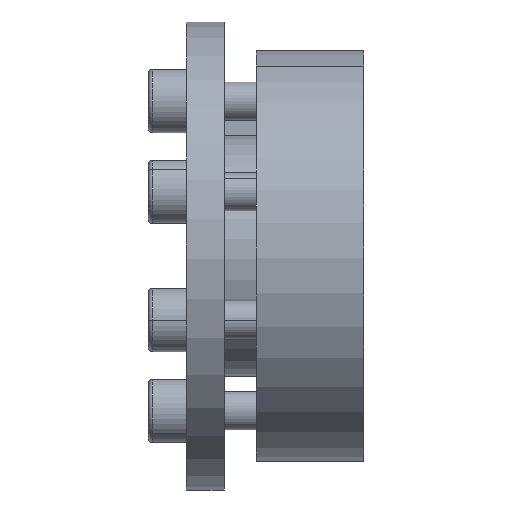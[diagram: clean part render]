
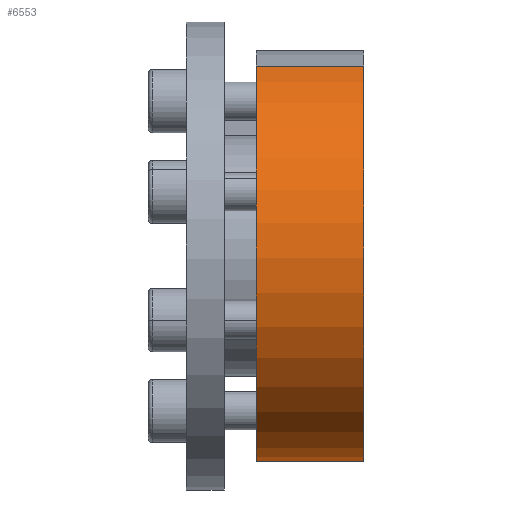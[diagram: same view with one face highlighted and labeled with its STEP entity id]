
A CAD part, front view. The second image highlights one B-rep face of the part: STEP entity #6553.
In plain terms, the highlighted cylindrical face has radius 32.5 mm (diameter 65 mm), a partial arc.
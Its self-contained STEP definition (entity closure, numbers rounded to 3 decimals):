
#249 = VERTEX_POINT ( 'NONE', #6549 ) ;
#400 = FACE_OUTER_BOUND ( 'NONE', #5461, .T. ) ;
#410 = VECTOR ( 'NONE', #6343, 1000. ) ;
#549 = AXIS2_PLACEMENT_3D ( 'NONE', #2062, #5718, #2579 ) ;
#569 = LINE ( 'NONE', #4832, #5624 ) ;
#1087 = EDGE_CURVE ( 'NONE', #1140, #3642, #2756, .T. ) ;
#1140 = VERTEX_POINT ( 'NONE', #3839 ) ;
#1317 = EDGE_CURVE ( 'NONE', #3642, #249, #5932, .T. ) ;
#1482 = CARTESIAN_POINT ( 'NONE',  ( 0.485, -17.829, 30.033 ) ) ;
#1727 = DIRECTION ( 'NONE',  ( 1., 0., 0. ) ) ;
#1869 = CARTESIAN_POINT ( 'NONE',  ( -16.515, -6.392, -32.478 ) ) ;
#1926 = AXIS2_PLACEMENT_3D ( 'NONE', #2587, #5187, #6215 ) ;
#2062 = CARTESIAN_POINT ( 'NONE',  ( -16.515, -5.392, 0.007 ) ) ;
#2308 = ORIENTED_EDGE ( 'NONE', *, *, #1087, .T. ) ;
#2579 = DIRECTION ( 'NONE',  ( 0., 0.383, -0.924 ) ) ;
#2587 = CARTESIAN_POINT ( 'NONE',  ( -16.515, -5.392, 0.007 ) ) ;
#2756 = CIRCLE ( 'NONE', #5382, 32.5 ) ;
#3309 = ORIENTED_EDGE ( 'NONE', *, *, #6159, .T. ) ;
#3511 = VERTEX_POINT ( 'NONE', #1869 ) ;
#3624 = ORIENTED_EDGE ( 'NONE', *, *, #4136, .F. ) ;
#3642 = VERTEX_POINT ( 'NONE', #1482 ) ;
#3764 = DIRECTION ( 'NONE',  ( 0., 0.383, -0.924 ) ) ;
#3839 = CARTESIAN_POINT ( 'NONE',  ( 0.485, -6.392, -32.478 ) ) ;
#4136 = EDGE_CURVE ( 'NONE', #3511, #249, #6447, .T. ) ;
#4275 = ORIENTED_EDGE ( 'NONE', *, *, #1317, .T. ) ;
#4392 = CYLINDRICAL_SURFACE ( 'NONE', #1926, 32.5 ) ;
#4832 = CARTESIAN_POINT ( 'NONE',  ( -16.515, -6.392, -32.478 ) ) ;
#4976 = CARTESIAN_POINT ( 'NONE',  ( -16.515, -17.829, 30.033 ) ) ;
#5187 = DIRECTION ( 'NONE',  ( -1., 0., 0. ) ) ;
#5382 = AXIS2_PLACEMENT_3D ( 'NONE', #5618, #5634, #3764 ) ;
#5461 = EDGE_LOOP ( 'NONE', ( #2308, #4275, #3624, #3309 ) ) ;
#5618 = CARTESIAN_POINT ( 'NONE',  ( 0.485, -5.392, 0.007 ) ) ;
#5624 = VECTOR ( 'NONE', #1727, 1000. ) ;
#5634 = DIRECTION ( 'NONE',  ( -1., 0., 0. ) ) ;
#5718 = DIRECTION ( 'NONE',  ( -1., 0., 0. ) ) ;
#5932 = LINE ( 'NONE', #4976, #410 ) ;
#6159 = EDGE_CURVE ( 'NONE', #3511, #1140, #569, .T. ) ;
#6215 = DIRECTION ( 'NONE',  ( 0., 0.383, -0.924 ) ) ;
#6343 = DIRECTION ( 'NONE',  ( -1., 0., 0. ) ) ;
#6447 = CIRCLE ( 'NONE', #549, 32.5 ) ;
#6549 = CARTESIAN_POINT ( 'NONE',  ( -16.515, -17.829, 30.033 ) ) ;
#6553 = ADVANCED_FACE ( 'NONE', ( #400 ), #4392, .T. ) ;
